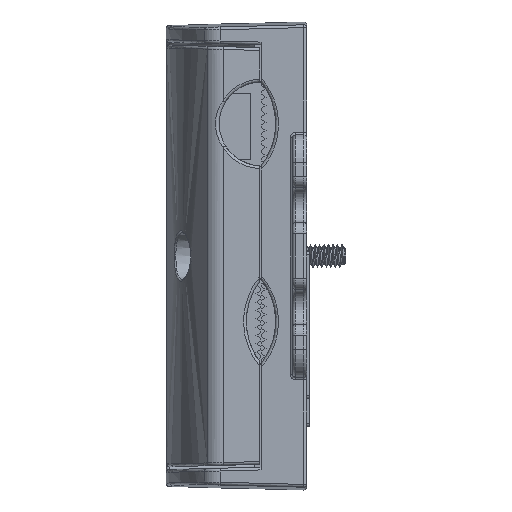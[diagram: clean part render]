
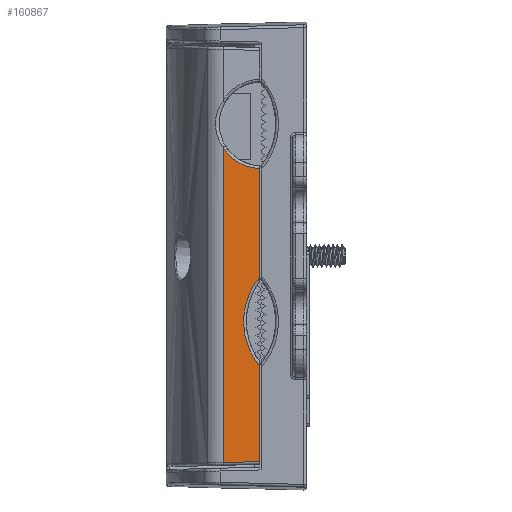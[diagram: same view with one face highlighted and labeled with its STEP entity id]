
A CAD part, left-side view. The second image highlights one B-rep face of the part: STEP entity #160867.
In plain terms, the highlighted planar face has unit normal (-1, -0.026, 0).
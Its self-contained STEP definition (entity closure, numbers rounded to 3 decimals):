
#842 = CARTESIAN_POINT ( 'NONE',  ( -85.038, 8.4, -19.779 ) ) ;
#5029 = CARTESIAN_POINT ( 'NONE',  ( -85.211, 15.003, -37.8 ) ) ;
#5137 = EDGE_CURVE ( 'NONE', #76435, #92015, #164394, .T. ) ;
#9245 = CARTESIAN_POINT ( 'NONE',  ( -85.145, 12.472, -8.58 ) ) ;
#10309 = CARTESIAN_POINT ( 'NONE',  ( -85.11, 11.162, 15.756 ) ) ;
#13333 = CARTESIAN_POINT ( 'NONE',  ( -85.038, 8.4, 15.683 ) ) ;
#15504 = ORIENTED_EDGE ( 'NONE', *, *, #185610, .T. ) ;
#31878 = VERTEX_POINT ( 'NONE', #49192 ) ;
#34159 = LINE ( 'NONE', #97372, #44448 ) ;
#39122 = VECTOR ( 'NONE', #163405, 1000. ) ;
#43188 = VECTOR ( 'NONE', #125833, 1000. ) ;
#44448 = VECTOR ( 'NONE', #144891, 1000. ) ;
#48148 = LINE ( 'NONE', #111346, #43188 ) ;
#49192 = CARTESIAN_POINT ( 'NONE',  ( -85.038, 8.4, -36.86 ) ) ;
#52124 = LINE ( 'NONE', #55206, #62310 ) ;
#52513 = EDGE_LOOP ( 'NONE', ( #78532, #82642, #142848, #62602, #15504, #120574 ) ) ;
#54204 = EDGE_CURVE ( 'NONE', #92015, #31878, #48148, .T. ) ;
#55206 = CARTESIAN_POINT ( 'NONE',  ( -85.038, 8.4, -37.8 ) ) ;
#62310 = VECTOR ( 'NONE', #71801, 1000. ) ;
#62602 = ORIENTED_EDGE ( 'NONE', *, *, #54204, .T. ) ;
#68586 = FACE_OUTER_BOUND ( 'NONE', #52513, .T. ) ;
#70617 = PLANE ( 'NONE',  #89628 ) ;
#71801 = DIRECTION ( 'NONE',  ( 0., 0., 1. ) ) ;
#72277 =( BOUNDED_CURVE ( )  B_SPLINE_CURVE ( 3, ( #138567, #199601, #9245, #104492 ),
 .UNSPECIFIED., .F., .T. ) 
 B_SPLINE_CURVE_WITH_KNOTS ( ( 4, 4 ),
 ( 5.586, 6.981 ),
 .UNSPECIFIED. ) 
 CURVE ( )  GEOMETRIC_REPRESENTATION_ITEM ( )  RATIONAL_B_SPLINE_CURVE ( ( 1., 0.844, 0.844, 1. ) ) 
 REPRESENTATION_ITEM ( '' )  );
#76435 = VERTEX_POINT ( 'NONE', #153133 ) ;
#78532 = ORIENTED_EDGE ( 'NONE', *, *, #79176, .T. ) ;
#79176 = EDGE_CURVE ( 'NONE', #170848, #159833, #52124, .T. ) ;
#82642 = ORIENTED_EDGE ( 'NONE', *, *, #145869, .T. ) ;
#86253 = DIRECTION ( 'NONE',  ( -0.026, 1., 0. ) ) ;
#89628 = AXIS2_PLACEMENT_3D ( 'NONE', #133709, #196800, #86253 ) ;
#92015 = VERTEX_POINT ( 'NONE', #104019 ) ;
#97372 = CARTESIAN_POINT ( 'NONE',  ( -85.038, 8.4, -37.8 ) ) ;
#104019 = CARTESIAN_POINT ( 'NONE',  ( -85.211, 15.003, -37.033 ) ) ;
#104492 = CARTESIAN_POINT ( 'NONE',  ( -85.038, 8.4, -3.721 ) ) ;
#110996 = VERTEX_POINT ( 'NONE', #842 ) ;
#111346 = CARTESIAN_POINT ( 'NONE',  ( -85.039, 8.425, -36.861 ) ) ;
#120574 = ORIENTED_EDGE ( 'NONE', *, *, #127745, .T. ) ;
#124146 = CARTESIAN_POINT ( 'NONE',  ( -85.211, 15.003, 19.491 ) ) ;
#125833 = DIRECTION ( 'NONE',  ( 0.026, -0.999, 0.026 ) ) ;
#127745 = EDGE_CURVE ( 'NONE', #110996, #170848, #72277, .T. ) ;
#130834 =( BOUNDED_CURVE ( )  B_SPLINE_CURVE ( 3, ( #13333, #10309, #183153, #124146 ),
 .UNSPECIFIED., .F., .T. ) 
 B_SPLINE_CURVE_WITH_KNOTS ( ( 4, 4 ),
 ( 4.739, 5.732 ),
 .UNSPECIFIED. ) 
 CURVE ( )  GEOMETRIC_REPRESENTATION_ITEM ( )  RATIONAL_B_SPLINE_CURVE ( ( 1., 0.919, 0.919, 1. ) ) 
 REPRESENTATION_ITEM ( '' )  );
#133709 = CARTESIAN_POINT ( 'NONE',  ( -85.038, 8.4, -37.8 ) ) ;
#138567 = CARTESIAN_POINT ( 'NONE',  ( -85.038, 8.4, -19.779 ) ) ;
#141986 = CARTESIAN_POINT ( 'NONE',  ( -85.038, 8.4, -3.721 ) ) ;
#142848 = ORIENTED_EDGE ( 'NONE', *, *, #5137, .T. ) ;
#144891 = DIRECTION ( 'NONE',  ( 0., 0., 1. ) ) ;
#145869 = EDGE_CURVE ( 'NONE', #159833, #76435, #130834, .T. ) ;
#153133 = CARTESIAN_POINT ( 'NONE',  ( -85.211, 15.003, 19.491 ) ) ;
#158878 = CARTESIAN_POINT ( 'NONE',  ( -85.038, 8.4, 15.683 ) ) ;
#159833 = VERTEX_POINT ( 'NONE', #158878 ) ;
#160867 = ADVANCED_FACE ( 'NONE', ( #68586 ), #70617, .T. ) ;
#163405 = DIRECTION ( 'NONE',  ( 0., 0., -1. ) ) ;
#164394 = LINE ( 'NONE', #5029, #39122 ) ;
#170848 = VERTEX_POINT ( 'NONE', #141986 ) ;
#183153 = CARTESIAN_POINT ( 'NONE',  ( -85.173, 13.556, 17.137 ) ) ;
#185610 = EDGE_CURVE ( 'NONE', #31878, #110996, #34159, .T. ) ;
#196800 = DIRECTION ( 'NONE',  ( -1., -0.026, 0. ) ) ;
#199601 = CARTESIAN_POINT ( 'NONE',  ( -85.145, 12.472, -14.92 ) ) ;
